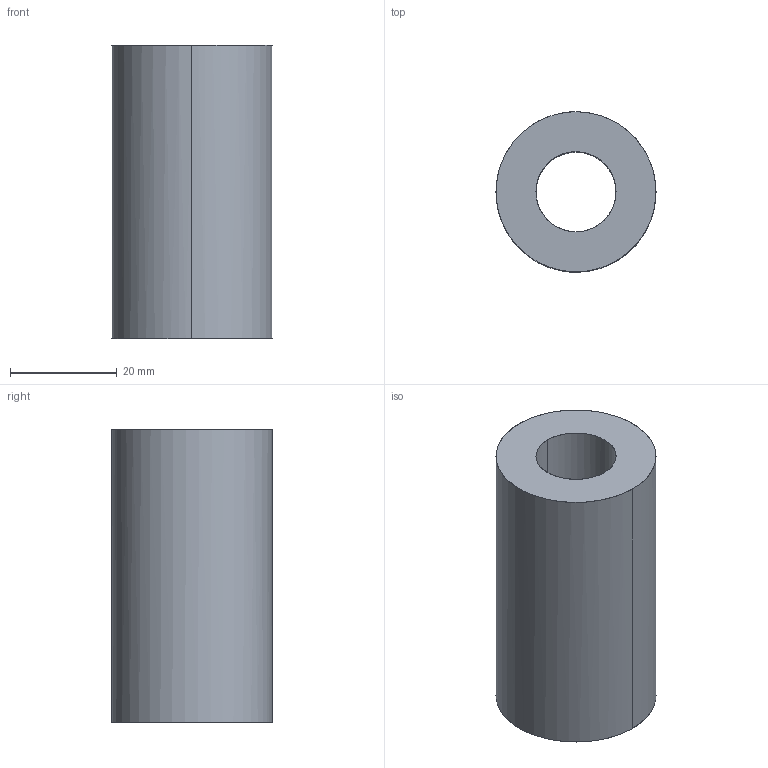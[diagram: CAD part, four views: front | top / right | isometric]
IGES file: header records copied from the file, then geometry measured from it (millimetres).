
Global section: file name: E:\UnigraphicsGraphicData\MISUMI_PRESS-PARTS\IGES\3d_swv30-55_00759_r00.igs; native system: NX V5.0; preprocessor: UGS NX IGES V5.0; author: MISUMI; date: 20110105.163300; units: millimetre
Bounding box: 30 x 30 x 55 mm (x, y, z)
Surface area: 8834.8 mm2 (no closed solid volume)
Topology: 0 solids, 0 shells, 6 faces, 64 edges, 64 vertices
Faces by surface type: bspline 6
